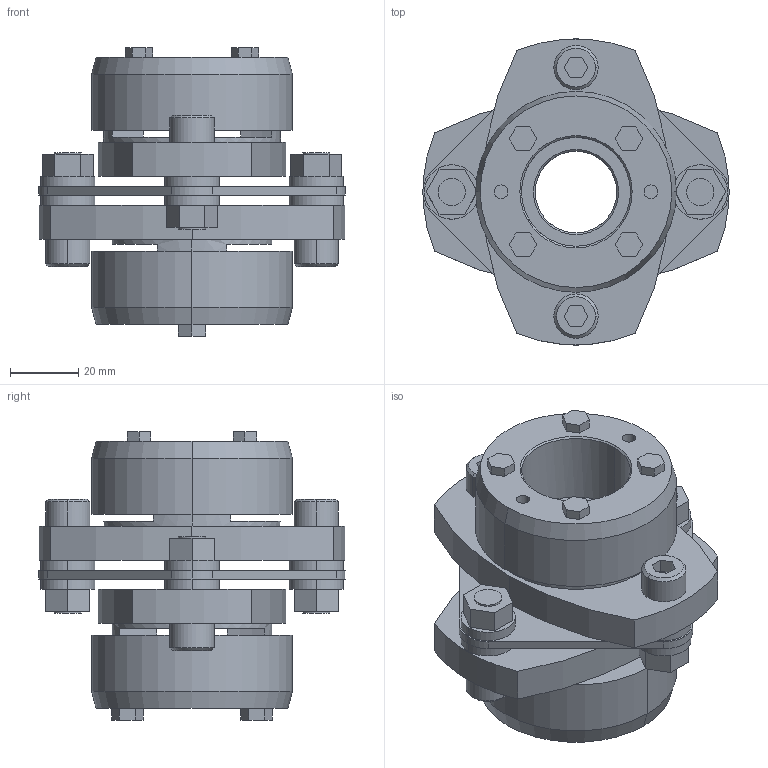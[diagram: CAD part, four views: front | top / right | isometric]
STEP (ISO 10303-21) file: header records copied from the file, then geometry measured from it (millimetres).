
FILE_DESCRIPTION((''),'2;1');
FILE_NAME('LCS-90T7-24×32.stp','2015-11-01T20:20:45',(''),(''),'AutoCAD STEP 2000i','AutoCAD 2000i',', , ');
FILE_SCHEMA(('CONFIG_CONTROL_DESIGN'));
Length unit declared in the file: millimetre
Products named in the file (11): LCS-90T7-25×32; 忣兜1; LC90T7-T032; LC90T7-T030; LC90T7-T025-1; LC90T7-T025; LC90T7-T019-1; LC90T7-T019; LC90-B019-1; LC90-B019; LCS90-ITA
Assembly tree (10 placements, depth 2):
  LCS-90T7-25×32
    忣兜1
    LC90T7-T032
    LC90T7-T030
    LC90T7-T025-1
    LC90T7-T025
    LC90T7-T019-1
    LC90T7-T019
    LC90-B019-1
    LC90-B019
    LCS90-ITA
Bounding box: 90 x 89.94 x 84.8 mm (x, y, z)
Volume: 187672.9 mm3; surface area: 51319 mm2
Topology: 1 solids, 1 shells, 232 faces, 568 edges, 372 vertices
Faces by surface type: plane 132, cylinder 80, cone 20
Entity records: 7119 total; most frequent: DIRECTION 1250, CARTESIAN_POINT 1183, ORIENTED_EDGE 1136, EDGE_CURVE 568, AXIS2_PLACEMENT_3D 439, VERTEX_POINT 372, VECTOR 372, LINE 372
